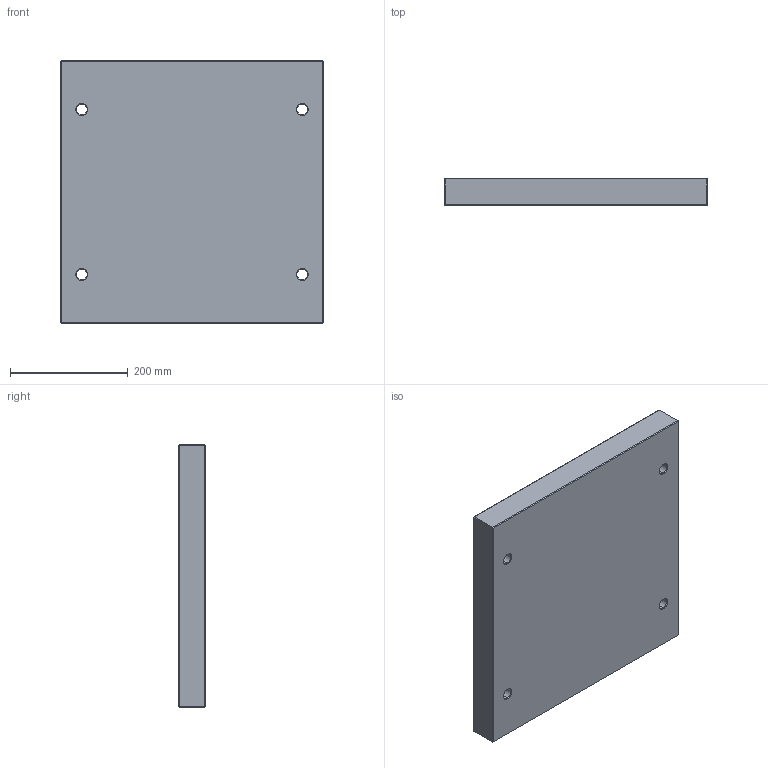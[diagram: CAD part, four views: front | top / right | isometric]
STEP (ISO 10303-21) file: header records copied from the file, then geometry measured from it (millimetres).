
FILE_DESCRIPTION (( 'STEP AP214' ), '1' );
FILE_NAME ('PS-446X446X46.STEP', '2020-05-12T15:43:35', ( 'August' ), ( '' ), 'SwSTEP 2.0', 'SolidWorks 2018', '' );
FILE_SCHEMA (( 'AUTOMOTIVE_DESIGN' ));
Length unit declared in the file: millimetre
Products named in the file (1): PS-446X446X46
Bounding box: 446 x 46 x 446 mm (x, y, z)
Volume: 9081253.1 mm3; surface area: 487560.4 mm2
Topology: 1 solids, 1 shells, 62 faces, 128 edges, 72 vertices
Faces by surface type: plane 30, cone 16, cylinder 16
Entity records: 1650 total; most frequent: DIRECTION 302, CARTESIAN_POINT 263, ORIENTED_EDGE 256, EDGE_CURVE 128, AXIS2_PLACEMENT_3D 111, LINE 80, VECTOR 80, EDGE_LOOP 74
